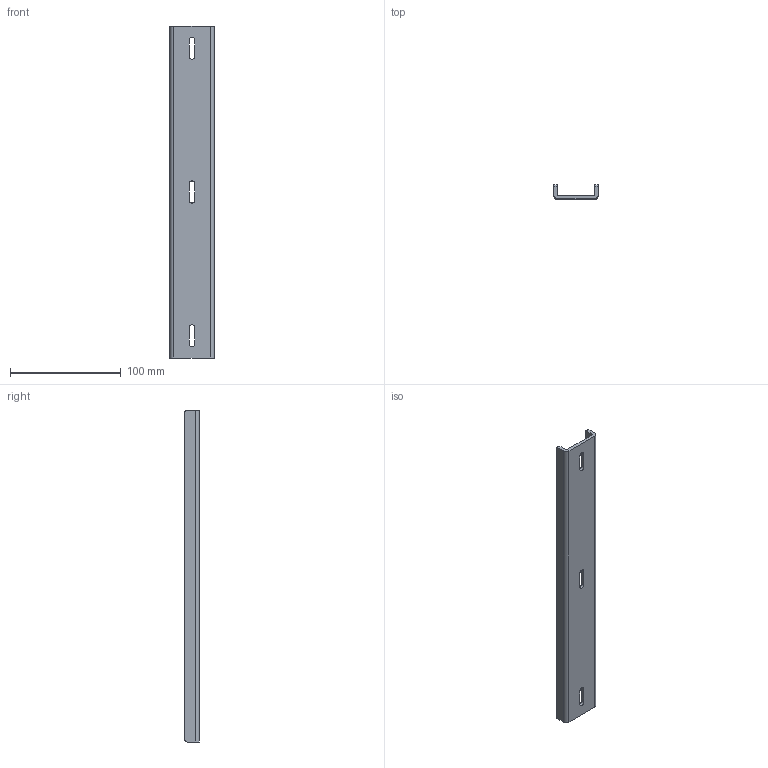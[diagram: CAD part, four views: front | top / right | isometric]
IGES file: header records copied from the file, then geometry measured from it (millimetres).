
Start section: SolidWorks IGES file using analytic representation for surfaces
Bounding box: 40 x 13 x 300 mm (x, y, z)
Surface area: 37033 mm2 (no closed solid volume)
Topology: 0 solids, 0 shells, 82 faces, 866 edges, 866 vertices
Faces by surface type: bspline 62, revolution 20
